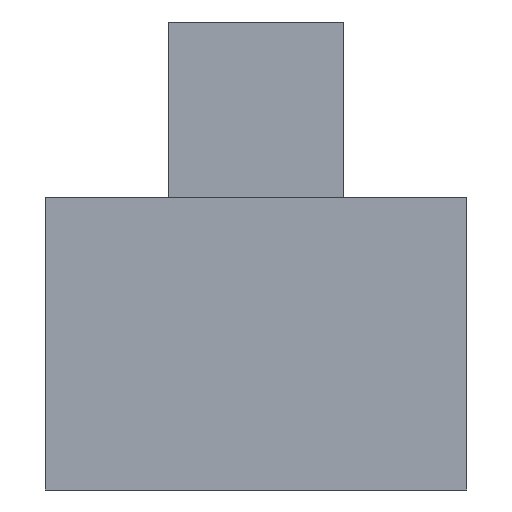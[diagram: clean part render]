
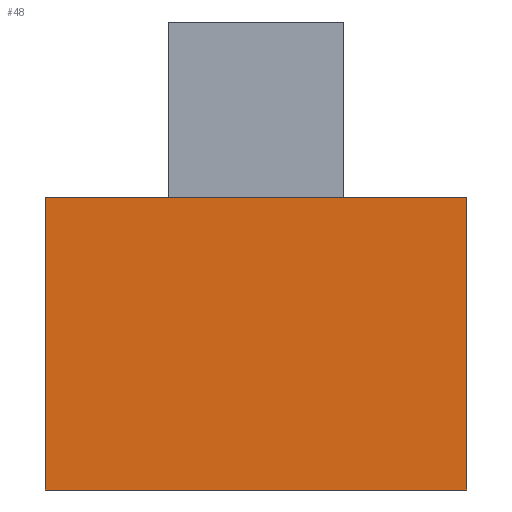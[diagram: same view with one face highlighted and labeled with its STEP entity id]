
A CAD part, left-side view. The second image highlights one B-rep face of the part: STEP entity #48.
In plain terms, the highlighted planar face has unit normal (-1, 0, 0).
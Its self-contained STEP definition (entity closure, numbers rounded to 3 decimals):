
#1=CARTESIAN_POINT('',(-4.5,-1.8,0.));
#2=VERTEX_POINT('',#1);
#5=CARTESIAN_POINT('',(-4.5,1.8,0.));
#6=VERTEX_POINT('',#5);
#9=CARTESIAN_POINT('',(-4.5,-1.8,2.5));
#10=VERTEX_POINT('',#9);
#13=CARTESIAN_POINT('',(-4.5,1.8,2.5));
#14=VERTEX_POINT('',#13);
#17=DIRECTION('',(0.,1.,0.));
#18=VECTOR('',#17,3.6);
#19=CARTESIAN_POINT('',(-4.5,-1.8,2.5));
#20=LINE('',#19,#18);
#21=EDGE_CURVE('',#10,#14,#20,.T.);
#22=ORIENTED_EDGE('',*,*,#21,.T.);
#23=DIRECTION('',(0.,0.,1.));
#24=VECTOR('',#23,2.5);
#25=CARTESIAN_POINT('',(-4.5,1.8,0.));
#26=LINE('',#25,#24);
#27=EDGE_CURVE('',#6,#14,#26,.T.);
#28=ORIENTED_EDGE('',*,*,#27,.F.);
#29=DIRECTION('',(0.,1.,0.));
#30=VECTOR('',#29,3.6);
#31=CARTESIAN_POINT('',(-4.5,-1.8,0.));
#32=LINE('',#31,#30);
#33=EDGE_CURVE('',#2,#6,#32,.T.);
#34=ORIENTED_EDGE('',*,*,#33,.F.);
#35=DIRECTION('',(0.,0.,1.));
#36=VECTOR('',#35,2.5);
#37=CARTESIAN_POINT('',(-4.5,-1.8,0.));
#38=LINE('',#37,#36);
#39=EDGE_CURVE('',#2,#10,#38,.T.);
#40=ORIENTED_EDGE('',*,*,#39,.T.);
#41=EDGE_LOOP('',(#22,#28,#34,#40));
#42=FACE_OUTER_BOUND('',#41,.T.);
#43=CARTESIAN_POINT('',(-4.5,-1.8,2.5));
#44=DIRECTION('',(-1.,0.,0.));
#45=DIRECTION('',(0.,1.,0.));
#46=AXIS2_PLACEMENT_3D('',#43,#44,#45);
#47=PLANE('',#46);
#48=ADVANCED_FACE('',(#42),#47,.T.);
